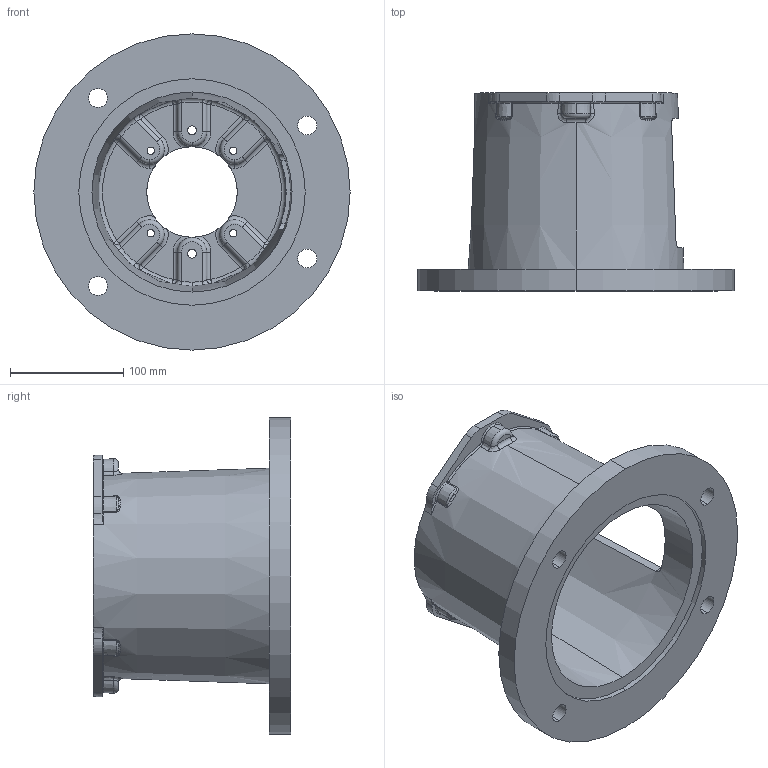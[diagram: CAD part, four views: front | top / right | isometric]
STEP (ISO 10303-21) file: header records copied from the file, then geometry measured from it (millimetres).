
FILE_DESCRIPTION (( 'STEP AP203' ), '1' );
FILE_NAME ('E7876880M.STEP', '2014-11-04T13:49:51', ( '' ), ( '' ), 'SwSTEP 2.0', 'SolidWorks 2014', '' );
FILE_SCHEMA (( 'CONFIG_CONTROL_DESIGN' ));
Length unit declared in the file: inch
Products named in the file (1): E7876880M
Bounding box: 279.4 x 174.75 x 279.4 mm (x, y, z)
Volume: 1494749.2 mm3; surface area: 309547.3 mm2
Topology: 1 solids, 1 shells, 337 faces, 847 edges, 502 vertices
Faces by surface type: torus 95, cylinder 86, bspline 64, plane 50, sphere 24, cone 18
Entity records: 13485 total; most frequent: CARTESIAN_POINT 5649, DIRECTION 1674, ORIENTED_EDGE 1670, EDGE_CURVE 835, AXIS2_PLACEMENT_3D 757, VERTEX_POINT 502, CIRCLE 483, EDGE_LOOP 363
